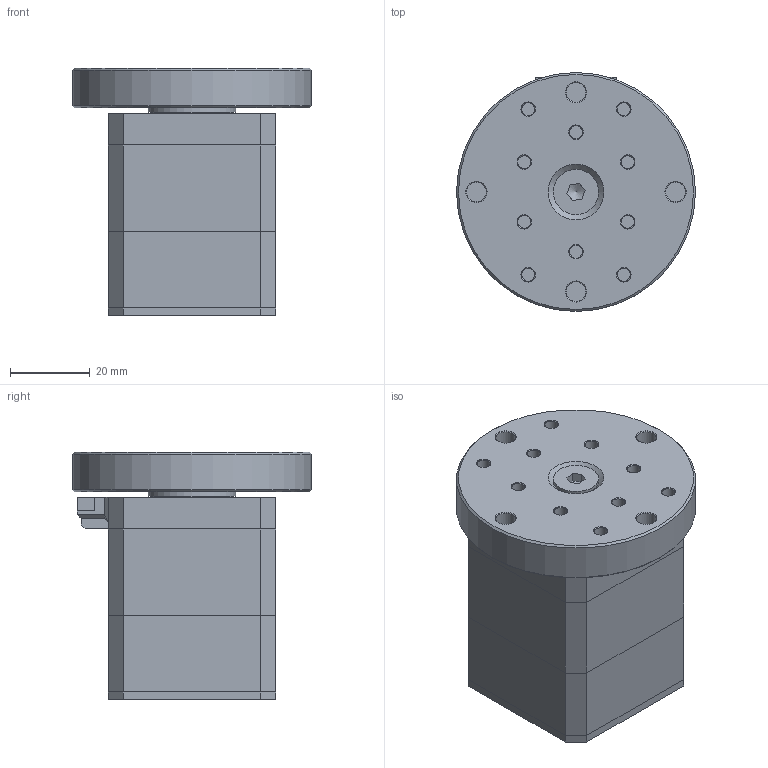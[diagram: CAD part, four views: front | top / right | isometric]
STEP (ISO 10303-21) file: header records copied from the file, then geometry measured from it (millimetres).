
FILE_DESCRIPTION(/* description */ (''),/* implementation_level */ '2;1');
FILE_NAME(/* name */ 'C:\ProgramData\PROCAD GmbH & Co. KG\NdfWork\339076_NdfWork\D00292491.step',/* time_stamp */ '2021-03-04T10:19:58+01:00',/* author */ ('motrebowski'),/* organization */ (''),/* preprocessor_version */ 'ST-DEVELOPER v18.1',/* originating_system */ 'Autodesk Inventor 2020',/* authorisation */ '');
FILE_SCHEMA (('AUTOMOTIVE_DESIGN { 1 0 10303 214 3 1 1 }'));
Length unit declared in the file: millimetre
Products named in the file (12): D00292491.iam; D00182663.ipt; D00196932.ipt; D00192126.ipt; D00115619.ipt; D00196919.ipt; D00197319.ipt; D00196931.ipt; D00175678.ipt; D00133498.ipt; D00193551; D00212228.ipt
Assembly tree (12 placements, depth 2):
  D00292491.iam
    D00182663.ipt
    D00196931.ipt  x2
    D00196932.ipt
    D00192126.ipt
    D00115619.ipt
    D00196919.ipt
    D00197319.ipt
    D00175678.ipt
    D00133498.ipt
    D00193551
    D00212228.ipt
Bounding box: 60 x 60 x 62.2 mm (x, y, z)
Volume: 80675 mm3; surface area: 48907.6 mm2
Topology: 12 solids, 12 shells, 1278 faces, 3517 edges, 2341 vertices
Faces by surface type: plane 1031, cylinder 192, cone 45, torus 8, bspline 2
Full cylindrical faces by diameter (mm): 2 x25, 2.95 x2, 3 x2, 3.2 x12, 3.242 x10, 3.4 x4, 4.917 x5, 5.6 x4, 6 x2, 6.882 x1, 7.204 x1, 8.2 x1, 11.34 x1, 12 x3, 20.2 x1, 22 x2, 22.5 x1, 30 x4, 32.6 x2, 33 x3, 34 x1, 36.9 x2, 37 x3, 60 x1
Entity records: 39621 total; most frequent: CARTESIAN_POINT 7480, ORIENTED_EDGE 6818, DIRECTION 6392, EDGE_CURVE 3409, LINE 2446, VECTOR 2446, VERTEX_POINT 2266, AXIS2_PLACEMENT_3D 1973
